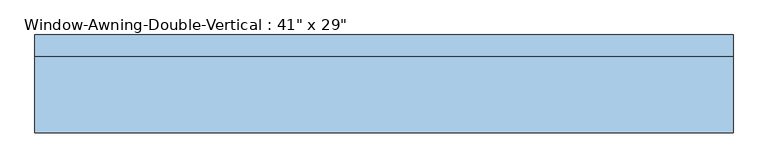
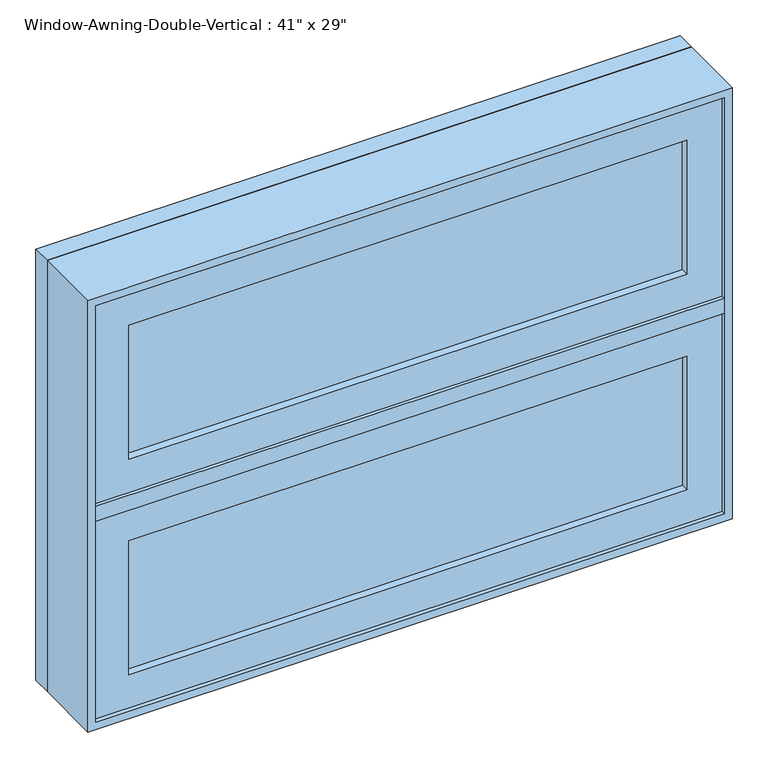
"""IFC4 building model written with IfcOpenShell, lengths in millimetres: window geometry."""

import ifcopenshell
import ifcopenshell.guid

model = None  # the IFC model being written
_history = None  # IfcOwnerHistory: only IFC2X3 demands one
_inside = {}  # id of a spatial element -> (the spatial element, [elements in it])
_under = {}  # id of a project, library or spatial element -> (it, [spatial elements below it])
_declared = {}  # id of a project -> (the project, [libraries it declares])
_typed = {}  # id of a type object -> (the type object, [elements of that type])
_made_of = {}  # id of a material, layer set ... -> (it, [elements and type objects made of it])


def new_model(schema):
    """Start an empty IFC model of exactly this schema.

    Asked for "IFC4X3", IfcOpenShell would pick the latest addendum, in which some entities
    have other attributes; the version numbers below select the first issue.
    IFC2X3 requires an IfcOwnerHistory on every rooted entity: one is made here for all.
    """
    global model, _history
    if schema == "IFC4X3":
        model = ifcopenshell.file(schema_version=(4, 3, 0, 0))
    else:
        model = ifcopenshell.file(schema=schema)
    _inside.clear()
    _under.clear()
    _declared.clear()
    _typed.clear()
    _made_of.clear()
    _history = None
    if model.schema == "IFC2X3":
        org = make("IfcOrganization", Name="unknown")
        user = make(
            "IfcPersonAndOrganization",
            ThePerson=make("IfcPerson", FamilyName="unknown"),
            TheOrganization=org,
        )
        app = make(
            "IfcApplication",
            ApplicationDeveloper=org,
            Version="unknown",
            ApplicationFullName="unknown",
            ApplicationIdentifier="unknown",
        )
        _history = make(
            "IfcOwnerHistory",
            OwningUser=user,
            OwningApplication=app,
            ChangeAction="ADDED",
            CreationDate=0,
        )
    return model


def make(cls, **values):
    """One entity of the class cls with the attributes given. An attribute that is None is left unset."""
    return model.create_entity(
        cls, **{name: value for name, value in values.items() if value is not None}
    )


def rooted(cls, **values):
    """An entity with a GlobalId (a new one), such as an element, a storey or a relation."""
    return make(cls, GlobalId=ifcopenshell.guid.new(), OwnerHistory=_history, **values)


def si_unit(unit_type, name, prefix=None):
    """IfcSIUnit, for example si_unit("LENGTHUNIT", "METRE", prefix="MILLI")."""
    return make("IfcSIUnit", UnitType=unit_type, Prefix=prefix, Name=name)


def assignment(units):
    """IfcUnitAssignment: the units of a project."""
    return None if units is None else make("IfcUnitAssignment", Units=units)


def point(xyz):
    """IfcCartesianPoint."""
    return None if xyz is None else make("IfcCartesianPoint", Coordinates=xyz)


def direction(xyz):
    """IfcDirection."""
    return None if xyz is None else make("IfcDirection", DirectionRatios=xyz)


def frame(location, z_axis=None, x_axis=None):
    """IfcAxis2Placement3D, a coordinate frame: its origin and axes. An axis left out is left unset."""
    return make(
        "IfcAxis2Placement3D",
        Location=point(location),
        Axis=direction(z_axis),
        RefDirection=direction(x_axis),
    )


def origin():
    """The frame at (0, 0, 0) with its axes left unset."""
    return frame((0.0, 0.0, 0.0))


def place(relative_to, where):
    """IfcLocalPlacement: puts the frame where relative to a parent placement (None: the world)."""
    return make(
        "IfcLocalPlacement", PlacementRelTo=relative_to, RelativePlacement=where
    )


def context(
    kind, dimensions, precision=None, world=None, true_north=None, identifier=None
):
    """IfcGeometricRepresentationContext, for example the 3D "Model" context."""
    return make(
        "IfcGeometricRepresentationContext",
        ContextIdentifier=identifier,
        ContextType=kind,
        CoordinateSpaceDimension=dimensions,
        Precision=precision,
        WorldCoordinateSystem=world,
        TrueNorth=true_north,
    )


def project(units=None, contexts=None):
    """IfcProject with its units and contexts."""
    return rooted(
        "IfcProject",
        Name="project",
        RepresentationContexts=contexts,
        UnitsInContext=assignment(units),
    )


def spatial(cls, under=None, at=None, **own):
    """A site, building, storey or space (cls), placed at a placement, below another one or the project."""
    s = rooted(cls, ObjectPlacement=at, **own)
    if under is not None:
        _under.setdefault(under.id(), (under, []))[1].append(s)
    return s


def polyline(points):
    """IfcPolyline through the points."""
    return make("IfcPolyline", Points=[point(p) for p in points])


def outline(outer, holes=None, kind="AREA"):
    """IfcArbitraryClosedProfileDef: a profile drawn as a closed curve; with holes, ...WithVoids."""
    if holes is None:
        return make("IfcArbitraryClosedProfileDef", ProfileType=kind, OuterCurve=outer)
    return make(
        "IfcArbitraryProfileDefWithVoids",
        ProfileType=kind,
        OuterCurve=outer,
        InnerCurves=holes,
    )


def extrude(swept, where, along, depth):
    """IfcExtrudedAreaSolid: the profile swept, set in the frame where, extruded along a direction by depth."""
    return make(
        "IfcExtrudedAreaSolid",
        SweptArea=swept,
        Position=where,
        ExtrudedDirection=direction(along),
        Depth=depth,
    )


def faces_of(points, faces, orient=None, outer=None):
    """IfcFace entities. A face is a list of loops; a loop is a list of indices into points, from 0.

    orient and outer hold one flag for each loop. By default every Orientation is true, the
    first loop of a face is its IfcFaceOuterBound and the others are IfcFaceBound.
    """
    made = []
    for i, loops in enumerate(faces):
        bounds = []
        for j, loop in enumerate(loops):
            is_outer = j == 0 if outer is None else outer[i][j]
            bounds.append(
                make(
                    "IfcFaceOuterBound" if is_outer else "IfcFaceBound",
                    Bound=make("IfcPolyLoop", Polygon=[points[k] for k in loop]),
                    Orientation=True if orient is None else orient[i][j],
                )
            )
        made.append(make("IfcFace", Bounds=bounds))
    return made


def faceted_brep(points, faces, orient=None, outer=None, voids=None):
    """IfcFacetedBrep: a solid bounded by flat faces; with voids (closed shells), ...WithVoids."""
    shared = [point(p) for p in points]
    hull = make("IfcClosedShell", CfsFaces=faces_of(shared, faces, orient, outer))
    if voids is None:
        return make("IfcFacetedBrep", Outer=hull)
    return make(
        "IfcFacetedBrepWithVoids",
        Outer=hull,
        Voids=[
            make(cls, CfsFaces=faces_of(shared, fs, o, b)) for cls, fs, o, b in voids
        ],
    )


def shape(context_of_items, identifier, shape_type, items):
    """IfcShapeRepresentation: the items that make up one representation, for example the "Body"."""
    return make(
        "IfcShapeRepresentation",
        ContextOfItems=context_of_items,
        RepresentationIdentifier=identifier,
        RepresentationType=shape_type,
        Items=items,
    )


def source(mapping_origin, context_of_items, identifier, shape_type, items):
    """IfcRepresentationMap: a shape defined once, which mapped items show again and again."""
    return make(
        "IfcRepresentationMap",
        MappingOrigin=mapping_origin,
        MappedRepresentation=shape(context_of_items, identifier, shape_type, items),
    )


def transform(
    local_origin,
    x_axis=None,
    y_axis=None,
    z_axis=None,
    scale=None,
    scale2=None,
    scale3=None,
    uniform=True,
):
    """IfcCartesianTransformationOperator3D, or its non-uniform kind. x_axis, y_axis, z_axis: its Axis1, 2, 3."""
    if uniform:
        return make(
            "IfcCartesianTransformationOperator3D",
            Axis1=direction(x_axis),
            Axis2=direction(y_axis),
            LocalOrigin=point(local_origin),
            Scale=scale,
            Axis3=direction(z_axis),
        )
    return make(
        "IfcCartesianTransformationOperator3DnonUniform",
        Axis1=direction(x_axis),
        Axis2=direction(y_axis),
        LocalOrigin=point(local_origin),
        Scale=scale,
        Axis3=direction(z_axis),
        Scale2=scale2,
        Scale3=scale3,
    )


def mapped(mapping_source, mapping_target):
    """IfcMappedItem: shows the shape of a source again, moved by a transform."""
    return make(
        "IfcMappedItem", MappingSource=mapping_source, MappingTarget=mapping_target
    )


def made_of(thing, what):
    """Note that an element or type object is made of a material, layer set ...; save() writes the relation."""
    if what is not None:
        _made_of.setdefault(what.id(), (what, []))[1].append(thing)
    return thing


def element(
    cls,
    number,
    at=None,
    inside=None,
    cuts=None,
    type_object=None,
    material=None,
    context=None,
    identifier="Body",
    shape_type=None,
    held_by="IfcProductDefinitionShape",
    body=None,
    shapes=None,
    **own,
):
    """One element of the class cls, such as IfcWall. Its Tag is "e" and its number.

    at: its placement. inside: the storey or other place that contains it. cuts: it is an
    opening in that element (IfcRelVoidsElement). A single representation is given by context,
    identifier, shape_type and body (its items); several are given by shapes. held_by: the class
    of the entity that holds the representations. save() writes the other relations.
    """
    e = rooted(cls, Tag="e%d" % number, ObjectPlacement=at, **own)
    if body is not None:
        shapes = [shape(context, identifier, shape_type, body)]
    if shapes is not None:
        e.Representation = make(held_by, Representations=shapes)
    if inside is not None:
        _inside.setdefault(inside.id(), (inside, []))[1].append(e)
    if cuts is not None:
        rooted(
            "IfcRelVoidsElement", RelatingBuildingElement=cuts, RelatedOpeningElement=e
        )
    if type_object is not None:
        _typed.setdefault(type_object.id(), (type_object, []))[1].append(e)
    return made_of(e, material)


def aggregate(whole, parts):
    """IfcRelAggregates: a whole, such as a stair, and the parts it consists of."""
    return rooted("IfcRelAggregates", RelatingObject=whole, RelatedObjects=parts)


def save(model, path):
    """Write the relations noted so far, then the file.

    IfcRelAggregates (storeys below a building ...), IfcRelContainedInSpatialStructure (elements
    in a storey), IfcRelDefinesByType, IfcRelAssociatesMaterial and IfcRelDeclares: one each for
    every whole, place, type object, material and project.
    """
    for whole, parts in _under.values():
        aggregate(whole, parts)
    for where, things in _inside.values():
        rooted(
            "IfcRelContainedInSpatialStructure",
            RelatedElements=things,
            RelatingStructure=where,
        )
    for kind, things in _typed.values():
        rooted("IfcRelDefinesByType", RelatedObjects=things, RelatingType=kind)
    for what, things in _made_of.values():
        rooted("IfcRelAssociatesMaterial", RelatedObjects=things, RelatingMaterial=what)
    for by, libraries in _declared.values():
        rooted("IfcRelDeclares", RelatingContext=by, RelatedDefinitions=libraries)
    model.write(path)


def window_ae7c3b18(model_context):
    return source(origin(), model_context, "Body", "SolidModel", [
        extrude(outline(polyline([(1651.0, -520.7), (914.4, -520.7), (914.4, 520.7), (1651.0, 520.7), (1651.0, -520.7)]), holes=[polyline([(1631.95, -501.65), (1631.95, 501.65), (933.45, 501.65), (933.45, -501.65), (1631.95, -501.65)])]), frame((0.0, 31.75, 0.0), z_axis=(0.0, 1.0, 0.0), x_axis=(0.0, 0.0, 1.0)), (0.0, 0.0, 1.0), 31.75),
        faceted_brep([(-520.7, 31.75, 1651.0), (-520.7, 31.75, 914.4), (-520.7, -82.55, 914.4), (-520.7, -82.55, 1651.0), (-508.0, -82.55, 1638.3), (-508.0, -82.55, 927.1), (-508.0, -31.75, 927.1), (-508.0, -31.75, 1638.3), (-488.95, -31.75, 1619.25), (-488.95, -31.75, 946.15), (-488.95, 31.75, 946.15), (-488.95, 31.75, 1619.25), (520.7, 31.75, 914.4), (520.7, -82.55, 914.4), (508.0, -82.55, 927.1), (508.0, -31.75, 927.1), (488.95, -31.75, 946.15), (488.95, 31.75, 946.15), (520.7, 31.75, 1651.0), (520.7, -82.55, 1651.0), (508.0, -82.55, 1638.3), (508.0, -31.75, 1638.3), (488.95, -31.75, 1619.25), (488.95, 31.75, 1619.25)], [[[0, 1, 2, 3]], [[4, 5, 6, 7]], [[8, 9, 10, 11]], [[1, 12, 13, 2]], [[5, 14, 15, 6]], [[9, 16, 17, 10]], [[12, 18, 19, 13]], [[14, 20, 21, 15]], [[16, 22, 23, 17]], [[1, 0, 18, 12], [11, 10, 17, 23]], [[18, 0, 3, 19]], [[3, 2, 13, 19], [5, 4, 20, 14]], [[20, 4, 7, 21]], [[7, 6, 15, 21], [9, 8, 22, 16]], [[22, 8, 11, 23]]]),
        extrude(outline(polyline([(1638.3, -508.0), (1295.4, -508.0), (1295.4, 508.0), (1638.3, 508.0), (1638.3, -508.0)]), holes=[polyline([(1352.55, -450.85), (1581.15, -450.85), (1581.15, 450.85), (1352.55, 450.85), (1352.55, -450.85)])]), frame((0.0, -76.2, 0.0), z_axis=(0.0, 1.0, 0.0), x_axis=(0.0, 0.0, 1.0)), (0.0, 0.0, 1.0), 44.45),
        extrude(outline(polyline([(450.85, -63.5), (-450.85, -63.5), (-450.85, -57.15), (450.85, -57.15), (450.85, -63.5)])), frame((0.0, 0.0, 1352.55), z_axis=(0.0, 0.0, 1.0), x_axis=(1.0, 0.0, 0.0)), (0.0, 0.0, 1.0), 228.6),
        extrude(outline(polyline([(450.85, -50.8), (-450.85, -50.8), (-450.85, -44.45), (450.85, -44.45), (450.85, -50.8)])), frame((0.0, 0.0, 1352.55), z_axis=(0.0, 0.0, 1.0), x_axis=(1.0, 0.0, 0.0)), (0.0, 0.0, 1.0), 228.6),
        extrude(outline(polyline([(450.85, -63.5), (-450.85, -63.5), (-450.85, -57.15), (450.85, -57.15), (450.85, -63.5)])), frame((0.0, 0.0, 984.25), z_axis=(0.0, 0.0, 1.0), x_axis=(1.0, 0.0, 0.0)), (0.0, 0.0, 1.0), 228.6),
        extrude(outline(polyline([(450.85, -50.8), (-450.85, -50.8), (-450.85, -44.45), (450.85, -44.45), (450.85, -50.8)])), frame((0.0, 0.0, 984.25), z_axis=(0.0, 0.0, 1.0), x_axis=(1.0, 0.0, 0.0)), (0.0, 0.0, 1.0), 228.6),
        extrude(outline(polyline([(-508.0, -31.75), (-488.95, -31.75), (-488.95, 31.75), (488.95, 31.75), (488.95, -31.75), (508.0, -31.75), (508.0, -82.55), (-508.0, -82.55), (-508.0, -31.75)])), frame((0.0, 0.0, 1270.0), z_axis=(0.0, 0.0, 1.0), x_axis=(1.0, 0.0, 0.0)), (0.0, 0.0, 1.0), 25.4),
        extrude(outline(polyline([(927.1, -508.0), (927.1, 508.0), (1270.0, 508.0), (1270.0, -508.0), (927.1, -508.0)]), holes=[polyline([(984.25, 450.85), (984.25, -450.85), (1212.85, -450.85), (1212.85, 450.85), (984.25, 450.85)])]), frame((0.0, -76.2, 0.0), z_axis=(0.0, 1.0, 0.0), x_axis=(0.0, 0.0, 1.0)), (0.0, 0.0, 1.0), 44.45),
    ])


if __name__ == "__main__":
    model = new_model("IFC4")
    model_context = context("Model", 3, world=origin())
    ifc_project = project(units=[si_unit("LENGTHUNIT", "METRE", prefix="MILLI")], contexts=[model_context])
    site = spatial("IfcSite", under=ifc_project)
    building = spatial("IfcBuilding", under=site)
    placement = place(None, origin())
    window_shape = window_ae7c3b18(model_context)
    element("IfcWindow", 1, ObjectType="Window-Awning-Double-Vertical : 41\" x 29\"", at=placement, inside=building, context=model_context, shape_type="MappedRepresentation", body=[
        mapped(window_shape, transform((0.0, 0.0, 0.0), x_axis=(1.0, 0.0, 0.0), y_axis=(0.0, 1.0, 0.0), z_axis=(0.0, 0.0, 1.0))),
    ])
    save(model, "model.ifc")
